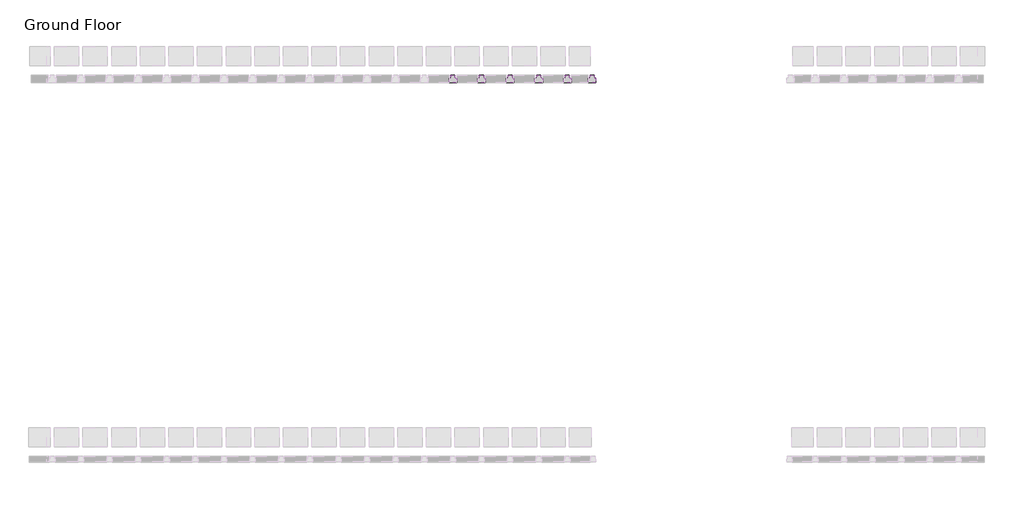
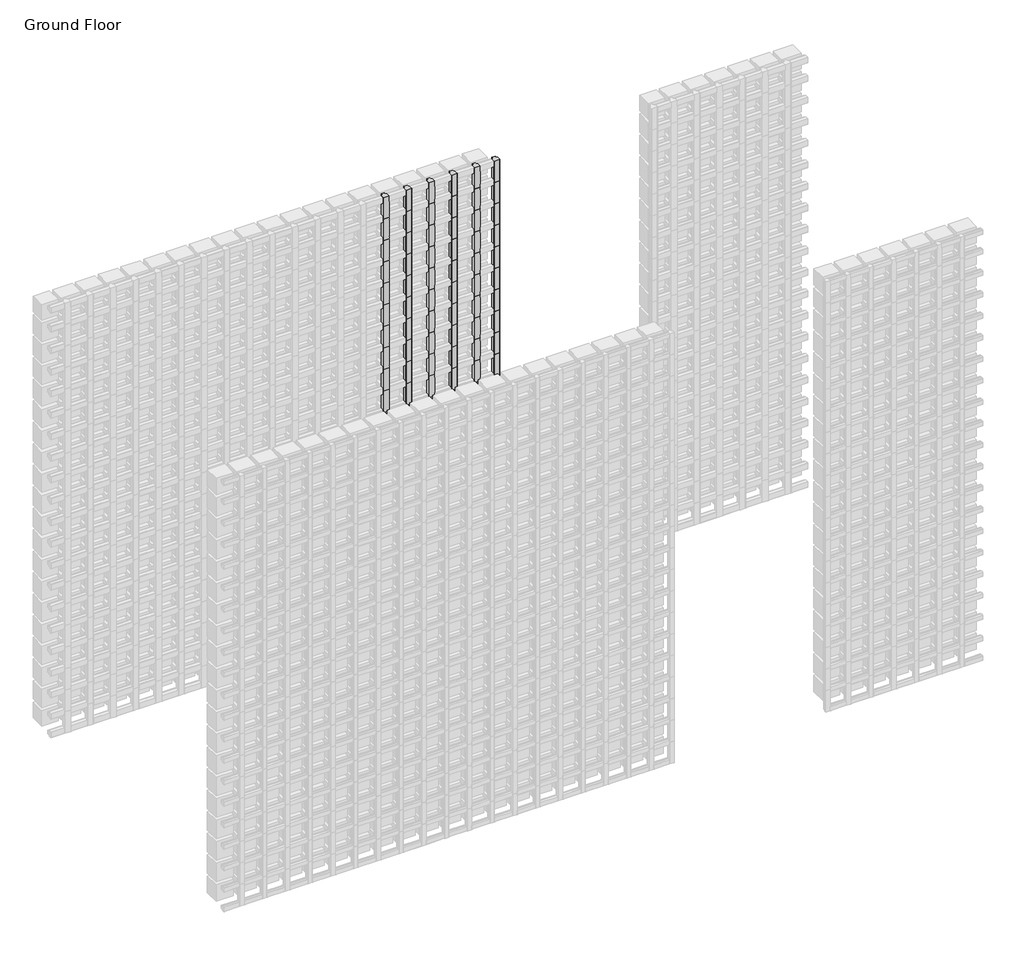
# One storey, part 116 of 350: 144 members.
"""IFC4 building model written with IfcOpenShell, lengths in millimetres."""

from ifc_helpers import new_model, si_unit, origin, place, context, project, spatial, transform, mapped, element, save
from components import rectangular_mullion_84e0df2e, rectangular_mullion_196cc38a, rectangular_mullion_c1c7f7ba, rectangular_mullion_18d3c9e1

model = new_model("IFC4")

# Units and contexts
model_context = context("Model", 3, world=origin())
ifc_project = project(units=[si_unit("LENGTHUNIT", "METRE", prefix="MILLI")], contexts=[model_context])

# Site, building, storey
site = spatial("IfcSite", under=ifc_project)
building = spatial("IfcBuilding", under=site)
storey = spatial("IfcBuildingStorey", under=building, Name="Ground Floor", Elevation=0.0)

# Members
placement = place(None, origin())
rectangular_mullion_shape = rectangular_mullion_84e0df2e(model_context)
element("IfcMember", 1, ObjectType="Rectangular Mullion : Batten_Timber_Modinex_Austratus_Grid_Fin_40x40_AlaskanYellowCedar", at=placement, inside=storey, context=model_context, shape_type="MappedRepresentation", body=[
    mapped(rectangular_mullion_shape, transform((4166.4361642, 44968.2978302, 900.0), x_axis=(1.0, 0.0, 0.0), y_axis=(0.0, -1.0, 0.0), z_axis=(0.0, 0.0, -1.0))),
])
element("IfcMember", 2, ObjectType="Rectangular Mullion : Batten_Timber_Modinex_Austratus_Grid_Fin_40x40_AlaskanYellowCedar", at=placement, inside=storey, context=model_context, shape_type="MappedRepresentation", body=[
    mapped(rectangular_mullion_shape, transform((4166.4361642, 44968.2978302, 1050.0), x_axis=(1.0, 0.0, 0.0), y_axis=(0.0, -1.0, 0.0), z_axis=(0.0, 0.0, -1.0))),
])
element("IfcMember", 3, ObjectType="Rectangular Mullion : Batten_Timber_Modinex_Austratus_Grid_Fin_40x40_AlaskanYellowCedar", at=placement, inside=storey, context=model_context, shape_type="MappedRepresentation", body=[
    mapped(rectangular_mullion_shape, transform((4166.4361642, 44968.2978302, 1200.0), x_axis=(1.0, 0.0, 0.0), y_axis=(0.0, -1.0, 0.0), z_axis=(0.0, 0.0, -1.0))),
])
element("IfcMember", 4, ObjectType="Rectangular Mullion : Batten_Timber_Modinex_Austratus_Grid_Fin_40x40_AlaskanYellowCedar", at=placement, inside=storey, context=model_context, shape_type="MappedRepresentation", body=[
    mapped(rectangular_mullion_shape, transform((4166.4361642, 44968.2978302, 1350.0), x_axis=(1.0, 0.0, 0.0), y_axis=(0.0, -1.0, 0.0), z_axis=(0.0, 0.0, -1.0))),
])
element("IfcMember", 5, ObjectType="Rectangular Mullion : Batten_Timber_Modinex_Austratus_Grid_Fin_40x40_AlaskanYellowCedar", at=placement, inside=storey, context=model_context, shape_type="MappedRepresentation", body=[
    mapped(rectangular_mullion_shape, transform((4166.4361642, 44968.2978302, 1500.0), x_axis=(1.0, 0.0, 0.0), y_axis=(0.0, -1.0, 0.0), z_axis=(0.0, 0.0, -1.0))),
])
element("IfcMember", 6, ObjectType="Rectangular Mullion : Batten_Timber_Modinex_Austratus_Grid_Fin_40x40_AlaskanYellowCedar", at=placement, inside=storey, context=model_context, shape_type="MappedRepresentation", body=[
    mapped(rectangular_mullion_shape, transform((4166.4361642, 44968.2978302, 1650.0), x_axis=(1.0, 0.0, 0.0), y_axis=(0.0, -1.0, 0.0), z_axis=(0.0, 0.0, -1.0))),
])
element("IfcMember", 7, ObjectType="Rectangular Mullion : Batten_Timber_Modinex_Austratus_Grid_Fin_40x40_AlaskanYellowCedar", at=placement, inside=storey, context=model_context, shape_type="MappedRepresentation", body=[
    mapped(rectangular_mullion_shape, transform((4166.4361642, 44968.2978302, 1800.0), x_axis=(1.0, 0.0, 0.0), y_axis=(0.0, -1.0, 0.0), z_axis=(0.0, 0.0, -1.0))),
])
element("IfcMember", 8, ObjectType="Rectangular Mullion : Batten_Timber_Modinex_Austratus_Grid_Fin_40x40_AlaskanYellowCedar", at=placement, inside=storey, context=model_context, shape_type="MappedRepresentation", body=[
    mapped(rectangular_mullion_shape, transform((4166.4361642, 44968.2978302, 1950.0), x_axis=(1.0, 0.0, 0.0), y_axis=(0.0, -1.0, 0.0), z_axis=(0.0, 0.0, -1.0))),
])
element("IfcMember", 9, ObjectType="Rectangular Mullion : Batten_Timber_Modinex_Austratus_Grid_Fin_40x40_AlaskanYellowCedar", at=placement, inside=storey, context=model_context, shape_type="MappedRepresentation", body=[
    mapped(rectangular_mullion_shape, transform((4166.4361642, 44968.2978302, 2100.0), x_axis=(1.0, 0.0, 0.0), y_axis=(0.0, -1.0, 0.0), z_axis=(0.0, 0.0, -1.0))),
])
element("IfcMember", 10, ObjectType="Rectangular Mullion : Batten_Timber_Modinex_Austratus_Grid_Fin_40x40_AlaskanYellowCedar", at=placement, inside=storey, context=model_context, shape_type="MappedRepresentation", body=[
    mapped(rectangular_mullion_shape, transform((4166.4361642, 44968.2978302, 2250.0), x_axis=(1.0, 0.0, 0.0), y_axis=(0.0, -1.0, 0.0), z_axis=(0.0, 0.0, -1.0))),
])
element("IfcMember", 11, ObjectType="Rectangular Mullion : Batten_Timber_Modinex_Austratus_Grid_Fin_40x40_AlaskanYellowCedar", at=placement, inside=storey, context=model_context, shape_type="MappedRepresentation", body=[
    mapped(rectangular_mullion_shape, transform((4166.4361642, 44968.2978302, 2400.0), x_axis=(1.0, 0.0, 0.0), y_axis=(0.0, -1.0, 0.0), z_axis=(0.0, 0.0, -1.0))),
])
element("IfcMember", 12, ObjectType="Rectangular Mullion : Batten_Timber_Modinex_Austratus_Grid_Fin_40x40_AlaskanYellowCedar", at=placement, inside=storey, context=model_context, shape_type="MappedRepresentation", body=[
    mapped(rectangular_mullion_shape, transform((4166.4361642, 44968.2978302, 2550.0), x_axis=(1.0, 0.0, 0.0), y_axis=(0.0, -1.0, 0.0), z_axis=(0.0, 0.0, -1.0))),
])
element("IfcMember", 13, ObjectType="Rectangular Mullion : Batten_Timber_Modinex_Austratus_Grid_Fin_40x40_AlaskanYellowCedar", at=placement, inside=storey, context=model_context, shape_type="MappedRepresentation", body=[
    mapped(rectangular_mullion_shape, transform((4166.4361642, 44968.2978302, 2700.0), x_axis=(1.0, 0.0, 0.0), y_axis=(0.0, -1.0, 0.0), z_axis=(0.0, 0.0, -1.0))),
])
element("IfcMember", 14, ObjectType="Rectangular Mullion : Batten_Timber_Modinex_Austratus_Grid_Fin_40x40_AlaskanYellowCedar", at=placement, inside=storey, context=model_context, shape_type="MappedRepresentation", body=[
    mapped(rectangular_mullion_shape, transform((4316.4361642, 44968.2978302, 150.0), x_axis=(1.0, 0.0, 0.0), y_axis=(0.0, -1.0, 0.0), z_axis=(0.0, 0.0, -1.0))),
])
element("IfcMember", 15, ObjectType="Rectangular Mullion : Batten_Timber_Modinex_Austratus_Grid_Fin_40x40_AlaskanYellowCedar", at=placement, inside=storey, context=model_context, shape_type="MappedRepresentation", body=[
    mapped(rectangular_mullion_shape, transform((4316.4361642, 44968.2978302, 300.0), x_axis=(1.0, 0.0, 0.0), y_axis=(0.0, -1.0, 0.0), z_axis=(0.0, 0.0, -1.0))),
])
element("IfcMember", 16, ObjectType="Rectangular Mullion : Batten_Timber_Modinex_Austratus_Grid_Fin_40x40_AlaskanYellowCedar", at=placement, inside=storey, context=model_context, shape_type="MappedRepresentation", body=[
    mapped(rectangular_mullion_shape, transform((4316.4361642, 44968.2978302, 450.0), x_axis=(1.0, 0.0, 0.0), y_axis=(0.0, -1.0, 0.0), z_axis=(0.0, 0.0, -1.0))),
])
element("IfcMember", 17, ObjectType="Rectangular Mullion : Batten_Timber_Modinex_Austratus_Grid_Fin_40x40_AlaskanYellowCedar", at=placement, inside=storey, context=model_context, shape_type="MappedRepresentation", body=[
    mapped(rectangular_mullion_shape, transform((4316.4361642, 44968.2978302, 600.0), x_axis=(1.0, 0.0, 0.0), y_axis=(0.0, -1.0, 0.0), z_axis=(0.0, 0.0, -1.0))),
])
element("IfcMember", 18, ObjectType="Rectangular Mullion : Batten_Timber_Modinex_Austratus_Grid_Fin_40x40_AlaskanYellowCedar", at=placement, inside=storey, context=model_context, shape_type="MappedRepresentation", body=[
    mapped(rectangular_mullion_shape, transform((4316.4361642, 44968.2978302, 750.0), x_axis=(1.0, 0.0, 0.0), y_axis=(0.0, -1.0, 0.0), z_axis=(0.0, 0.0, -1.0))),
])
element("IfcMember", 19, ObjectType="Rectangular Mullion : Batten_Timber_Modinex_Austratus_Grid_Fin_40x40_AlaskanYellowCedar", at=placement, inside=storey, context=model_context, shape_type="MappedRepresentation", body=[
    mapped(rectangular_mullion_shape, transform((4316.4361642, 44968.2978302, 900.0), x_axis=(1.0, 0.0, 0.0), y_axis=(0.0, -1.0, 0.0), z_axis=(0.0, 0.0, -1.0))),
])
element("IfcMember", 20, ObjectType="Rectangular Mullion : Batten_Timber_Modinex_Austratus_Grid_Fin_40x40_AlaskanYellowCedar", at=placement, inside=storey, context=model_context, shape_type="MappedRepresentation", body=[
    mapped(rectangular_mullion_shape, transform((4316.4361642, 44968.2978302, 1050.0), x_axis=(1.0, 0.0, 0.0), y_axis=(0.0, -1.0, 0.0), z_axis=(0.0, 0.0, -1.0))),
])
element("IfcMember", 21, ObjectType="Rectangular Mullion : Batten_Timber_Modinex_Austratus_Grid_Fin_40x40_AlaskanYellowCedar", at=placement, inside=storey, context=model_context, shape_type="MappedRepresentation", body=[
    mapped(rectangular_mullion_shape, transform((4316.4361642, 44968.2978302, 1200.0), x_axis=(1.0, 0.0, 0.0), y_axis=(0.0, -1.0, 0.0), z_axis=(0.0, 0.0, -1.0))),
])
element("IfcMember", 22, ObjectType="Rectangular Mullion : Batten_Timber_Modinex_Austratus_Grid_Fin_40x40_AlaskanYellowCedar", at=placement, inside=storey, context=model_context, shape_type="MappedRepresentation", body=[
    mapped(rectangular_mullion_shape, transform((4316.4361642, 44968.2978302, 1350.0), x_axis=(1.0, 0.0, 0.0), y_axis=(0.0, -1.0, 0.0), z_axis=(0.0, 0.0, -1.0))),
])
element("IfcMember", 23, ObjectType="Rectangular Mullion : Batten_Timber_Modinex_Austratus_Grid_Fin_40x40_AlaskanYellowCedar", at=placement, inside=storey, context=model_context, shape_type="MappedRepresentation", body=[
    mapped(rectangular_mullion_shape, transform((4316.4361642, 44968.2978302, 1500.0), x_axis=(1.0, 0.0, 0.0), y_axis=(0.0, -1.0, 0.0), z_axis=(0.0, 0.0, -1.0))),
])
element("IfcMember", 24, ObjectType="Rectangular Mullion : Batten_Timber_Modinex_Austratus_Grid_Fin_40x40_AlaskanYellowCedar", at=placement, inside=storey, context=model_context, shape_type="MappedRepresentation", body=[
    mapped(rectangular_mullion_shape, transform((4316.4361642, 44968.2978302, 1650.0), x_axis=(1.0, 0.0, 0.0), y_axis=(0.0, -1.0, 0.0), z_axis=(0.0, 0.0, -1.0))),
])
element("IfcMember", 25, ObjectType="Rectangular Mullion : Batten_Timber_Modinex_Austratus_Grid_Fin_40x40_AlaskanYellowCedar", at=placement, inside=storey, context=model_context, shape_type="MappedRepresentation", body=[
    mapped(rectangular_mullion_shape, transform((4316.4361642, 44968.2978302, 1800.0), x_axis=(1.0, 0.0, 0.0), y_axis=(0.0, -1.0, 0.0), z_axis=(0.0, 0.0, -1.0))),
])
element("IfcMember", 26, ObjectType="Rectangular Mullion : Batten_Timber_Modinex_Austratus_Grid_Fin_40x40_AlaskanYellowCedar", at=placement, inside=storey, context=model_context, shape_type="MappedRepresentation", body=[
    mapped(rectangular_mullion_shape, transform((4316.4361642, 44968.2978302, 1950.0), x_axis=(1.0, 0.0, 0.0), y_axis=(0.0, -1.0, 0.0), z_axis=(0.0, 0.0, -1.0))),
])
element("IfcMember", 27, ObjectType="Rectangular Mullion : Batten_Timber_Modinex_Austratus_Grid_Fin_40x40_AlaskanYellowCedar", at=placement, inside=storey, context=model_context, shape_type="MappedRepresentation", body=[
    mapped(rectangular_mullion_shape, transform((4316.4361642, 44968.2978302, 2100.0), x_axis=(1.0, 0.0, 0.0), y_axis=(0.0, -1.0, 0.0), z_axis=(0.0, 0.0, -1.0))),
])
element("IfcMember", 28, ObjectType="Rectangular Mullion : Batten_Timber_Modinex_Austratus_Grid_Fin_40x40_AlaskanYellowCedar", at=placement, inside=storey, context=model_context, shape_type="MappedRepresentation", body=[
    mapped(rectangular_mullion_shape, transform((4316.4361642, 44968.2978302, 2250.0), x_axis=(1.0, 0.0, 0.0), y_axis=(0.0, -1.0, 0.0), z_axis=(0.0, 0.0, -1.0))),
])
element("IfcMember", 29, ObjectType="Rectangular Mullion : Batten_Timber_Modinex_Austratus_Grid_Fin_40x40_AlaskanYellowCedar", at=placement, inside=storey, context=model_context, shape_type="MappedRepresentation", body=[
    mapped(rectangular_mullion_shape, transform((4316.4361642, 44968.2978302, 2400.0), x_axis=(1.0, 0.0, 0.0), y_axis=(0.0, -1.0, 0.0), z_axis=(0.0, 0.0, -1.0))),
])
element("IfcMember", 30, ObjectType="Rectangular Mullion : Batten_Timber_Modinex_Austratus_Grid_Fin_40x40_AlaskanYellowCedar", at=placement, inside=storey, context=model_context, shape_type="MappedRepresentation", body=[
    mapped(rectangular_mullion_shape, transform((4316.4361642, 44968.2978302, 2550.0), x_axis=(1.0, 0.0, 0.0), y_axis=(0.0, -1.0, 0.0), z_axis=(0.0, 0.0, -1.0))),
])
element("IfcMember", 31, ObjectType="Rectangular Mullion : Batten_Timber_Modinex_Austratus_Grid_Fin_40x40_AlaskanYellowCedar", at=placement, inside=storey, context=model_context, shape_type="MappedRepresentation", body=[
    mapped(rectangular_mullion_shape, transform((4316.4361642, 44968.2978302, 2700.0), x_axis=(1.0, 0.0, 0.0), y_axis=(0.0, -1.0, 0.0), z_axis=(0.0, 0.0, -1.0))),
])
element("IfcMember", 32, ObjectType="Rectangular Mullion : Batten_Timber_Modinex_Austratus_Grid_Fin_40x40_AlaskanYellowCedar", at=placement, inside=storey, context=model_context, shape_type="MappedRepresentation", body=[
    mapped(rectangular_mullion_shape, transform((4466.4361642, 44968.2978302, 150.0), x_axis=(1.0, 0.0, 0.0), y_axis=(0.0, -1.0, 0.0), z_axis=(0.0, 0.0, -1.0))),
])
element("IfcMember", 33, ObjectType="Rectangular Mullion : Batten_Timber_Modinex_Austratus_Grid_Fin_40x40_AlaskanYellowCedar", at=placement, inside=storey, context=model_context, shape_type="MappedRepresentation", body=[
    mapped(rectangular_mullion_shape, transform((4466.4361642, 44968.2978302, 300.0), x_axis=(1.0, 0.0, 0.0), y_axis=(0.0, -1.0, 0.0), z_axis=(0.0, 0.0, -1.0))),
])
element("IfcMember", 34, ObjectType="Rectangular Mullion : Batten_Timber_Modinex_Austratus_Grid_Fin_40x40_AlaskanYellowCedar", at=placement, inside=storey, context=model_context, shape_type="MappedRepresentation", body=[
    mapped(rectangular_mullion_shape, transform((4466.4361642, 44968.2978302, 450.0), x_axis=(1.0, 0.0, 0.0), y_axis=(0.0, -1.0, 0.0), z_axis=(0.0, 0.0, -1.0))),
])
element("IfcMember", 35, ObjectType="Rectangular Mullion : Batten_Timber_Modinex_Austratus_Grid_Fin_40x40_AlaskanYellowCedar", at=placement, inside=storey, context=model_context, shape_type="MappedRepresentation", body=[
    mapped(rectangular_mullion_shape, transform((4466.4361642, 44968.2978302, 600.0), x_axis=(1.0, 0.0, 0.0), y_axis=(0.0, -1.0, 0.0), z_axis=(0.0, 0.0, -1.0))),
])
element("IfcMember", 36, ObjectType="Rectangular Mullion : Batten_Timber_Modinex_Austratus_Grid_Fin_40x40_AlaskanYellowCedar", at=placement, inside=storey, context=model_context, shape_type="MappedRepresentation", body=[
    mapped(rectangular_mullion_shape, transform((4466.4361642, 44968.2978302, 750.0), x_axis=(1.0, 0.0, 0.0), y_axis=(0.0, -1.0, 0.0), z_axis=(0.0, 0.0, -1.0))),
])
element("IfcMember", 37, ObjectType="Rectangular Mullion : Batten_Timber_Modinex_Austratus_Grid_Fin_40x40_AlaskanYellowCedar", at=placement, inside=storey, context=model_context, shape_type="MappedRepresentation", body=[
    mapped(rectangular_mullion_shape, transform((4466.4361642, 44968.2978302, 900.0), x_axis=(1.0, 0.0, 0.0), y_axis=(0.0, -1.0, 0.0), z_axis=(0.0, 0.0, -1.0))),
])
element("IfcMember", 38, ObjectType="Rectangular Mullion : Batten_Timber_Modinex_Austratus_Grid_Fin_40x40_AlaskanYellowCedar", at=placement, inside=storey, context=model_context, shape_type="MappedRepresentation", body=[
    mapped(rectangular_mullion_shape, transform((4466.4361642, 44968.2978302, 1050.0), x_axis=(1.0, 0.0, 0.0), y_axis=(0.0, -1.0, 0.0), z_axis=(0.0, 0.0, -1.0))),
])
element("IfcMember", 39, ObjectType="Rectangular Mullion : Batten_Timber_Modinex_Austratus_Grid_Fin_40x40_AlaskanYellowCedar", at=placement, inside=storey, context=model_context, shape_type="MappedRepresentation", body=[
    mapped(rectangular_mullion_shape, transform((4466.4361642, 44968.2978302, 1200.0), x_axis=(1.0, 0.0, 0.0), y_axis=(0.0, -1.0, 0.0), z_axis=(0.0, 0.0, -1.0))),
])
element("IfcMember", 40, ObjectType="Rectangular Mullion : Batten_Timber_Modinex_Austratus_Grid_Fin_40x40_AlaskanYellowCedar", at=placement, inside=storey, context=model_context, shape_type="MappedRepresentation", body=[
    mapped(rectangular_mullion_shape, transform((4466.4361642, 44968.2978302, 1350.0), x_axis=(1.0, 0.0, 0.0), y_axis=(0.0, -1.0, 0.0), z_axis=(0.0, 0.0, -1.0))),
])
element("IfcMember", 41, ObjectType="Rectangular Mullion : Batten_Timber_Modinex_Austratus_Grid_Fin_40x40_AlaskanYellowCedar", at=placement, inside=storey, context=model_context, shape_type="MappedRepresentation", body=[
    mapped(rectangular_mullion_shape, transform((4466.4361642, 44968.2978302, 1500.0), x_axis=(1.0, 0.0, 0.0), y_axis=(0.0, -1.0, 0.0), z_axis=(0.0, 0.0, -1.0))),
])
element("IfcMember", 42, ObjectType="Rectangular Mullion : Batten_Timber_Modinex_Austratus_Grid_Fin_40x40_AlaskanYellowCedar", at=placement, inside=storey, context=model_context, shape_type="MappedRepresentation", body=[
    mapped(rectangular_mullion_shape, transform((4466.4361642, 44968.2978302, 1650.0), x_axis=(1.0, 0.0, 0.0), y_axis=(0.0, -1.0, 0.0), z_axis=(0.0, 0.0, -1.0))),
])
element("IfcMember", 43, ObjectType="Rectangular Mullion : Batten_Timber_Modinex_Austratus_Grid_Fin_40x40_AlaskanYellowCedar", at=placement, inside=storey, context=model_context, shape_type="MappedRepresentation", body=[
    mapped(rectangular_mullion_shape, transform((4466.4361642, 44968.2978302, 1800.0), x_axis=(1.0, 0.0, 0.0), y_axis=(0.0, -1.0, 0.0), z_axis=(0.0, 0.0, -1.0))),
])
element("IfcMember", 44, ObjectType="Rectangular Mullion : Batten_Timber_Modinex_Austratus_Grid_Fin_40x40_AlaskanYellowCedar", at=placement, inside=storey, context=model_context, shape_type="MappedRepresentation", body=[
    mapped(rectangular_mullion_shape, transform((4466.4361642, 44968.2978302, 1950.0), x_axis=(1.0, 0.0, 0.0), y_axis=(0.0, -1.0, 0.0), z_axis=(0.0, 0.0, -1.0))),
])
element("IfcMember", 45, ObjectType="Rectangular Mullion : Batten_Timber_Modinex_Austratus_Grid_Fin_40x40_AlaskanYellowCedar", at=placement, inside=storey, context=model_context, shape_type="MappedRepresentation", body=[
    mapped(rectangular_mullion_shape, transform((4466.4361642, 44968.2978302, 2100.0), x_axis=(1.0, 0.0, 0.0), y_axis=(0.0, -1.0, 0.0), z_axis=(0.0, 0.0, -1.0))),
])
element("IfcMember", 46, ObjectType="Rectangular Mullion : Batten_Timber_Modinex_Austratus_Grid_Fin_40x40_AlaskanYellowCedar", at=placement, inside=storey, context=model_context, shape_type="MappedRepresentation", body=[
    mapped(rectangular_mullion_shape, transform((4466.4361642, 44968.2978302, 2250.0), x_axis=(1.0, 0.0, 0.0), y_axis=(0.0, -1.0, 0.0), z_axis=(0.0, 0.0, -1.0))),
])
element("IfcMember", 47, ObjectType="Rectangular Mullion : Batten_Timber_Modinex_Austratus_Grid_Fin_40x40_AlaskanYellowCedar", at=placement, inside=storey, context=model_context, shape_type="MappedRepresentation", body=[
    mapped(rectangular_mullion_shape, transform((4466.4361642, 44968.2978302, 2400.0), x_axis=(1.0, 0.0, 0.0), y_axis=(0.0, -1.0, 0.0), z_axis=(0.0, 0.0, -1.0))),
])
element("IfcMember", 48, ObjectType="Rectangular Mullion : Batten_Timber_Modinex_Austratus_Grid_Fin_40x40_AlaskanYellowCedar", at=placement, inside=storey, context=model_context, shape_type="MappedRepresentation", body=[
    mapped(rectangular_mullion_shape, transform((4466.4361642, 44968.2978302, 2550.0), x_axis=(1.0, 0.0, 0.0), y_axis=(0.0, -1.0, 0.0), z_axis=(0.0, 0.0, -1.0))),
])
element("IfcMember", 49, ObjectType="Rectangular Mullion : Batten_Timber_Modinex_Austratus_Grid_Fin_40x40_AlaskanYellowCedar", at=placement, inside=storey, context=model_context, shape_type="MappedRepresentation", body=[
    mapped(rectangular_mullion_shape, transform((4466.4361642, 44968.2978302, 2700.0), x_axis=(1.0, 0.0, 0.0), y_axis=(0.0, -1.0, 0.0), z_axis=(0.0, 0.0, -1.0))),
])
element("IfcMember", 50, ObjectType="Rectangular Mullion : Batten_Timber_Modinex_Austratus_Grid_Fin_40x40_AlaskanYellowCedar", at=placement, inside=storey, context=model_context, shape_type="MappedRepresentation", body=[
    mapped(rectangular_mullion_shape, transform((4616.4361642, 44968.2978302, 150.0), x_axis=(1.0, 0.0, 0.0), y_axis=(0.0, -1.0, 0.0), z_axis=(0.0, 0.0, -1.0))),
])
element("IfcMember", 51, ObjectType="Rectangular Mullion : Batten_Timber_Modinex_Austratus_Grid_Fin_40x40_AlaskanYellowCedar", at=placement, inside=storey, context=model_context, shape_type="MappedRepresentation", body=[
    mapped(rectangular_mullion_shape, transform((4616.4361642, 44968.2978302, 300.0), x_axis=(1.0, 0.0, 0.0), y_axis=(0.0, -1.0, 0.0), z_axis=(0.0, 0.0, -1.0))),
])
element("IfcMember", 52, ObjectType="Rectangular Mullion : Batten_Timber_Modinex_Austratus_Grid_Fin_40x40_AlaskanYellowCedar", at=placement, inside=storey, context=model_context, shape_type="MappedRepresentation", body=[
    mapped(rectangular_mullion_shape, transform((4616.4361642, 44968.2978302, 450.0), x_axis=(1.0, 0.0, 0.0), y_axis=(0.0, -1.0, 0.0), z_axis=(0.0, 0.0, -1.0))),
])
element("IfcMember", 53, ObjectType="Rectangular Mullion : Batten_Timber_Modinex_Austratus_Grid_Fin_40x40_AlaskanYellowCedar", at=placement, inside=storey, context=model_context, shape_type="MappedRepresentation", body=[
    mapped(rectangular_mullion_shape, transform((4616.4361642, 44968.2978302, 600.0), x_axis=(1.0, 0.0, 0.0), y_axis=(0.0, -1.0, 0.0), z_axis=(0.0, 0.0, -1.0))),
])
element("IfcMember", 54, ObjectType="Rectangular Mullion : Batten_Timber_Modinex_Austratus_Grid_Fin_40x40_AlaskanYellowCedar", at=placement, inside=storey, context=model_context, shape_type="MappedRepresentation", body=[
    mapped(rectangular_mullion_shape, transform((4616.4361642, 44968.2978302, 750.0), x_axis=(1.0, 0.0, 0.0), y_axis=(0.0, -1.0, 0.0), z_axis=(0.0, 0.0, -1.0))),
])
element("IfcMember", 55, ObjectType="Rectangular Mullion : Batten_Timber_Modinex_Austratus_Grid_Fin_40x40_AlaskanYellowCedar", at=placement, inside=storey, context=model_context, shape_type="MappedRepresentation", body=[
    mapped(rectangular_mullion_shape, transform((4616.4361642, 44968.2978302, 900.0), x_axis=(1.0, 0.0, 0.0), y_axis=(0.0, -1.0, 0.0), z_axis=(0.0, 0.0, -1.0))),
])
element("IfcMember", 56, ObjectType="Rectangular Mullion : Batten_Timber_Modinex_Austratus_Grid_Fin_40x40_AlaskanYellowCedar", at=placement, inside=storey, context=model_context, shape_type="MappedRepresentation", body=[
    mapped(rectangular_mullion_shape, transform((4616.4361642, 44968.2978302, 1050.0), x_axis=(1.0, 0.0, 0.0), y_axis=(0.0, -1.0, 0.0), z_axis=(0.0, 0.0, -1.0))),
])
element("IfcMember", 57, ObjectType="Rectangular Mullion : Batten_Timber_Modinex_Austratus_Grid_Fin_40x40_AlaskanYellowCedar", at=placement, inside=storey, context=model_context, shape_type="MappedRepresentation", body=[
    mapped(rectangular_mullion_shape, transform((4616.4361642, 44968.2978302, 1200.0), x_axis=(1.0, 0.0, 0.0), y_axis=(0.0, -1.0, 0.0), z_axis=(0.0, 0.0, -1.0))),
])
element("IfcMember", 58, ObjectType="Rectangular Mullion : Batten_Timber_Modinex_Austratus_Grid_Fin_40x40_AlaskanYellowCedar", at=placement, inside=storey, context=model_context, shape_type="MappedRepresentation", body=[
    mapped(rectangular_mullion_shape, transform((4616.4361642, 44968.2978302, 1350.0), x_axis=(1.0, 0.0, 0.0), y_axis=(0.0, -1.0, 0.0), z_axis=(0.0, 0.0, -1.0))),
])
element("IfcMember", 59, ObjectType="Rectangular Mullion : Batten_Timber_Modinex_Austratus_Grid_Fin_40x40_AlaskanYellowCedar", at=placement, inside=storey, context=model_context, shape_type="MappedRepresentation", body=[
    mapped(rectangular_mullion_shape, transform((4616.4361642, 44968.2978302, 1500.0), x_axis=(1.0, 0.0, 0.0), y_axis=(0.0, -1.0, 0.0), z_axis=(0.0, 0.0, -1.0))),
])
element("IfcMember", 60, ObjectType="Rectangular Mullion : Batten_Timber_Modinex_Austratus_Grid_Fin_40x40_AlaskanYellowCedar", at=placement, inside=storey, context=model_context, shape_type="MappedRepresentation", body=[
    mapped(rectangular_mullion_shape, transform((4616.4361642, 44968.2978302, 1650.0), x_axis=(1.0, 0.0, 0.0), y_axis=(0.0, -1.0, 0.0), z_axis=(0.0, 0.0, -1.0))),
])
element("IfcMember", 61, ObjectType="Rectangular Mullion : Batten_Timber_Modinex_Austratus_Grid_Fin_40x40_AlaskanYellowCedar", at=placement, inside=storey, context=model_context, shape_type="MappedRepresentation", body=[
    mapped(rectangular_mullion_shape, transform((4616.4361642, 44968.2978302, 1800.0), x_axis=(1.0, 0.0, 0.0), y_axis=(0.0, -1.0, 0.0), z_axis=(0.0, 0.0, -1.0))),
])
element("IfcMember", 62, ObjectType="Rectangular Mullion : Batten_Timber_Modinex_Austratus_Grid_Fin_40x40_AlaskanYellowCedar", at=placement, inside=storey, context=model_context, shape_type="MappedRepresentation", body=[
    mapped(rectangular_mullion_shape, transform((4616.4361642, 44968.2978302, 1950.0), x_axis=(1.0, 0.0, 0.0), y_axis=(0.0, -1.0, 0.0), z_axis=(0.0, 0.0, -1.0))),
])
element("IfcMember", 63, ObjectType="Rectangular Mullion : Batten_Timber_Modinex_Austratus_Grid_Fin_40x40_AlaskanYellowCedar", at=placement, inside=storey, context=model_context, shape_type="MappedRepresentation", body=[
    mapped(rectangular_mullion_shape, transform((4616.4361642, 44968.2978302, 2100.0), x_axis=(1.0, 0.0, 0.0), y_axis=(0.0, -1.0, 0.0), z_axis=(0.0, 0.0, -1.0))),
])
element("IfcMember", 64, ObjectType="Rectangular Mullion : Batten_Timber_Modinex_Austratus_Grid_Fin_40x40_AlaskanYellowCedar", at=placement, inside=storey, context=model_context, shape_type="MappedRepresentation", body=[
    mapped(rectangular_mullion_shape, transform((4616.4361642, 44968.2978302, 2250.0), x_axis=(1.0, 0.0, 0.0), y_axis=(0.0, -1.0, 0.0), z_axis=(0.0, 0.0, -1.0))),
])
element("IfcMember", 65, ObjectType="Rectangular Mullion : Batten_Timber_Modinex_Austratus_Grid_Fin_40x40_AlaskanYellowCedar", at=placement, inside=storey, context=model_context, shape_type="MappedRepresentation", body=[
    mapped(rectangular_mullion_shape, transform((4616.4361642, 44968.2978302, 2400.0), x_axis=(1.0, 0.0, 0.0), y_axis=(0.0, -1.0, 0.0), z_axis=(0.0, 0.0, -1.0))),
])
element("IfcMember", 66, ObjectType="Rectangular Mullion : Batten_Timber_Modinex_Austratus_Grid_Fin_40x40_AlaskanYellowCedar", at=placement, inside=storey, context=model_context, shape_type="MappedRepresentation", body=[
    mapped(rectangular_mullion_shape, transform((4616.4361642, 44968.2978302, 2550.0), x_axis=(1.0, 0.0, 0.0), y_axis=(0.0, -1.0, 0.0), z_axis=(0.0, 0.0, -1.0))),
])
element("IfcMember", 67, ObjectType="Rectangular Mullion : Batten_Timber_Modinex_Austratus_Grid_Fin_40x40_AlaskanYellowCedar", at=placement, inside=storey, context=model_context, shape_type="MappedRepresentation", body=[
    mapped(rectangular_mullion_shape, transform((4616.4361642, 44968.2978302, 2700.0), x_axis=(1.0, 0.0, 0.0), y_axis=(0.0, -1.0, 0.0), z_axis=(0.0, 0.0, -1.0))),
])
element("IfcMember", 68, ObjectType="Rectangular Mullion : Batten_Timber_Modinex_Austratus_Grid_Fin_40x40_AlaskanYellowCedar", at=placement, inside=storey, context=model_context, shape_type="MappedRepresentation", body=[
    mapped(rectangular_mullion_shape, transform((4766.4361642, 44968.2978302, 150.0), x_axis=(1.0, 0.0, 0.0), y_axis=(0.0, -1.0, 0.0), z_axis=(0.0, 0.0, -1.0))),
])
element("IfcMember", 69, ObjectType="Rectangular Mullion : Batten_Timber_Modinex_Austratus_Grid_Fin_40x40_AlaskanYellowCedar", at=placement, inside=storey, context=model_context, shape_type="MappedRepresentation", body=[
    mapped(rectangular_mullion_shape, transform((4766.4361642, 44968.2978302, 300.0), x_axis=(1.0, 0.0, 0.0), y_axis=(0.0, -1.0, 0.0), z_axis=(0.0, 0.0, -1.0))),
])
element("IfcMember", 70, ObjectType="Rectangular Mullion : Batten_Timber_Modinex_Austratus_Grid_Fin_40x40_AlaskanYellowCedar", at=placement, inside=storey, context=model_context, shape_type="MappedRepresentation", body=[
    mapped(rectangular_mullion_shape, transform((4766.4361642, 44968.2978302, 450.0), x_axis=(1.0, 0.0, 0.0), y_axis=(0.0, -1.0, 0.0), z_axis=(0.0, 0.0, -1.0))),
])
element("IfcMember", 71, ObjectType="Rectangular Mullion : Batten_Timber_Modinex_Austratus_Grid_Fin_40x40_AlaskanYellowCedar", at=placement, inside=storey, context=model_context, shape_type="MappedRepresentation", body=[
    mapped(rectangular_mullion_shape, transform((4766.4361642, 44968.2978302, 600.0), x_axis=(1.0, 0.0, 0.0), y_axis=(0.0, -1.0, 0.0), z_axis=(0.0, 0.0, -1.0))),
])
element("IfcMember", 72, ObjectType="Rectangular Mullion : Batten_Timber_Modinex_Austratus_Grid_Fin_40x40_AlaskanYellowCedar", at=placement, inside=storey, context=model_context, shape_type="MappedRepresentation", body=[
    mapped(rectangular_mullion_shape, transform((4766.4361642, 44968.2978302, 750.0), x_axis=(1.0, 0.0, 0.0), y_axis=(0.0, -1.0, 0.0), z_axis=(0.0, 0.0, -1.0))),
])
element("IfcMember", 73, ObjectType="Rectangular Mullion : Batten_Timber_Modinex_Austratus_Grid_Fin_40x40_AlaskanYellowCedar", at=placement, inside=storey, context=model_context, shape_type="MappedRepresentation", body=[
    mapped(rectangular_mullion_shape, transform((4766.4361642, 44968.2978302, 900.0), x_axis=(1.0, 0.0, 0.0), y_axis=(0.0, -1.0, 0.0), z_axis=(0.0, 0.0, -1.0))),
])
element("IfcMember", 74, ObjectType="Rectangular Mullion : Batten_Timber_Modinex_Austratus_Grid_Fin_40x40_AlaskanYellowCedar", at=placement, inside=storey, context=model_context, shape_type="MappedRepresentation", body=[
    mapped(rectangular_mullion_shape, transform((4766.4361642, 44968.2978302, 1050.0), x_axis=(1.0, 0.0, 0.0), y_axis=(0.0, -1.0, 0.0), z_axis=(0.0, 0.0, -1.0))),
])
element("IfcMember", 75, ObjectType="Rectangular Mullion : Batten_Timber_Modinex_Austratus_Grid_Fin_40x40_AlaskanYellowCedar", at=placement, inside=storey, context=model_context, shape_type="MappedRepresentation", body=[
    mapped(rectangular_mullion_shape, transform((4766.4361642, 44968.2978302, 1200.0), x_axis=(1.0, 0.0, 0.0), y_axis=(0.0, -1.0, 0.0), z_axis=(0.0, 0.0, -1.0))),
])
element("IfcMember", 76, ObjectType="Rectangular Mullion : Batten_Timber_Modinex_Austratus_Grid_Fin_40x40_AlaskanYellowCedar", at=placement, inside=storey, context=model_context, shape_type="MappedRepresentation", body=[
    mapped(rectangular_mullion_shape, transform((4766.4361642, 44968.2978302, 1350.0), x_axis=(1.0, 0.0, 0.0), y_axis=(0.0, -1.0, 0.0), z_axis=(0.0, 0.0, -1.0))),
])
element("IfcMember", 77, ObjectType="Rectangular Mullion : Batten_Timber_Modinex_Austratus_Grid_Fin_40x40_AlaskanYellowCedar", at=placement, inside=storey, context=model_context, shape_type="MappedRepresentation", body=[
    mapped(rectangular_mullion_shape, transform((4766.4361642, 44968.2978302, 1500.0), x_axis=(1.0, 0.0, 0.0), y_axis=(0.0, -1.0, 0.0), z_axis=(0.0, 0.0, -1.0))),
])
element("IfcMember", 78, ObjectType="Rectangular Mullion : Batten_Timber_Modinex_Austratus_Grid_Fin_40x40_AlaskanYellowCedar", at=placement, inside=storey, context=model_context, shape_type="MappedRepresentation", body=[
    mapped(rectangular_mullion_shape, transform((4766.4361642, 44968.2978302, 1650.0), x_axis=(1.0, 0.0, 0.0), y_axis=(0.0, -1.0, 0.0), z_axis=(0.0, 0.0, -1.0))),
])
element("IfcMember", 79, ObjectType="Rectangular Mullion : Batten_Timber_Modinex_Austratus_Grid_Fin_40x40_AlaskanYellowCedar", at=placement, inside=storey, context=model_context, shape_type="MappedRepresentation", body=[
    mapped(rectangular_mullion_shape, transform((4766.4361642, 44968.2978302, 1800.0), x_axis=(1.0, 0.0, 0.0), y_axis=(0.0, -1.0, 0.0), z_axis=(0.0, 0.0, -1.0))),
])
element("IfcMember", 80, ObjectType="Rectangular Mullion : Batten_Timber_Modinex_Austratus_Grid_Fin_40x40_AlaskanYellowCedar", at=placement, inside=storey, context=model_context, shape_type="MappedRepresentation", body=[
    mapped(rectangular_mullion_shape, transform((4766.4361642, 44968.2978302, 1950.0), x_axis=(1.0, 0.0, 0.0), y_axis=(0.0, -1.0, 0.0), z_axis=(0.0, 0.0, -1.0))),
])
element("IfcMember", 81, ObjectType="Rectangular Mullion : Batten_Timber_Modinex_Austratus_Grid_Fin_40x40_AlaskanYellowCedar", at=placement, inside=storey, context=model_context, shape_type="MappedRepresentation", body=[
    mapped(rectangular_mullion_shape, transform((4766.4361642, 44968.2978302, 2100.0), x_axis=(1.0, 0.0, 0.0), y_axis=(0.0, -1.0, 0.0), z_axis=(0.0, 0.0, -1.0))),
])
element("IfcMember", 82, ObjectType="Rectangular Mullion : Batten_Timber_Modinex_Austratus_Grid_Fin_40x40_AlaskanYellowCedar", at=placement, inside=storey, context=model_context, shape_type="MappedRepresentation", body=[
    mapped(rectangular_mullion_shape, transform((4766.4361642, 44968.2978302, 2250.0), x_axis=(1.0, 0.0, 0.0), y_axis=(0.0, -1.0, 0.0), z_axis=(0.0, 0.0, -1.0))),
])
element("IfcMember", 83, ObjectType="Rectangular Mullion : Batten_Timber_Modinex_Austratus_Grid_Fin_40x40_AlaskanYellowCedar", at=placement, inside=storey, context=model_context, shape_type="MappedRepresentation", body=[
    mapped(rectangular_mullion_shape, transform((4766.4361642, 44968.2978302, 2400.0), x_axis=(1.0, 0.0, 0.0), y_axis=(0.0, -1.0, 0.0), z_axis=(0.0, 0.0, -1.0))),
])
element("IfcMember", 84, ObjectType="Rectangular Mullion : Batten_Timber_Modinex_Austratus_Grid_Fin_40x40_AlaskanYellowCedar", at=placement, inside=storey, context=model_context, shape_type="MappedRepresentation", body=[
    mapped(rectangular_mullion_shape, transform((4766.4361642, 44968.2978302, 2550.0), x_axis=(1.0, 0.0, 0.0), y_axis=(0.0, -1.0, 0.0), z_axis=(0.0, 0.0, -1.0))),
])
element("IfcMember", 85, ObjectType="Rectangular Mullion : Batten_Timber_Modinex_Austratus_Grid_Fin_40x40_AlaskanYellowCedar", at=placement, inside=storey, context=model_context, shape_type="MappedRepresentation", body=[
    mapped(rectangular_mullion_shape, transform((4766.4361642, 44968.2978302, 2700.0), x_axis=(1.0, 0.0, 0.0), y_axis=(0.0, -1.0, 0.0), z_axis=(0.0, 0.0, -1.0))),
])
element("IfcMember", 86, ObjectType="Rectangular Mullion : Batten_Timber_Modinex_Austratus_Grid_Fin_40x40_AlaskanYellowCedar", at=placement, inside=storey, context=model_context, shape_type="MappedRepresentation", body=[
    mapped(rectangular_mullion_shape, transform((4166.4361642, 44968.2978302, 2850.0), x_axis=(1.0, 0.0, 0.0), y_axis=(0.0, -1.0, 0.0), z_axis=(0.0, 0.0, -1.0))),
])
element("IfcMember", 87, ObjectType="Rectangular Mullion : Batten_Timber_Modinex_Austratus_Grid_Fin_40x40_AlaskanYellowCedar", at=placement, inside=storey, context=model_context, shape_type="MappedRepresentation", body=[
    mapped(rectangular_mullion_shape, transform((4316.4361642, 44968.2978302, 2850.0), x_axis=(1.0, 0.0, 0.0), y_axis=(0.0, -1.0, 0.0), z_axis=(0.0, 0.0, -1.0))),
])
element("IfcMember", 88, ObjectType="Rectangular Mullion : Batten_Timber_Modinex_Austratus_Grid_Fin_40x40_AlaskanYellowCedar", at=placement, inside=storey, context=model_context, shape_type="MappedRepresentation", body=[
    mapped(rectangular_mullion_shape, transform((4466.4361642, 44968.2978302, 2850.0), x_axis=(1.0, 0.0, 0.0), y_axis=(0.0, -1.0, 0.0), z_axis=(0.0, 0.0, -1.0))),
])
element("IfcMember", 89, ObjectType="Rectangular Mullion : Batten_Timber_Modinex_Austratus_Grid_Fin_40x40_AlaskanYellowCedar", at=placement, inside=storey, context=model_context, shape_type="MappedRepresentation", body=[
    mapped(rectangular_mullion_shape, transform((4616.4361642, 44968.2978302, 2850.0), x_axis=(1.0, 0.0, 0.0), y_axis=(0.0, -1.0, 0.0), z_axis=(0.0, 0.0, -1.0))),
])
element("IfcMember", 90, ObjectType="Rectangular Mullion : Batten_Timber_Modinex_Austratus_Grid_Fin_40x40_AlaskanYellowCedar", at=placement, inside=storey, context=model_context, shape_type="MappedRepresentation", body=[
    mapped(rectangular_mullion_shape, transform((4766.4361642, 44968.2978302, 2850.0), x_axis=(1.0, 0.0, 0.0), y_axis=(0.0, -1.0, 0.0), z_axis=(0.0, 0.0, -1.0))),
])
rectangular_mullion_2_shape = rectangular_mullion_196cc38a(model_context)
element("IfcMember", 91, ObjectType="Rectangular Mullion : Batten_Timber_Modinex_Austratus_Grid_Fin_40x40_AlaskanYellowCedar", at=placement, inside=storey, context=model_context, shape_type="MappedRepresentation", body=[
    mapped(rectangular_mullion_2_shape, transform((4876.4361639, 44968.2978302, 150.0), x_axis=(0.0, 0.0, 1.0), y_axis=(0.0, -1.0, 0.0), z_axis=(1.0, 0.0, 0.0))),
])
element("IfcMember", 92, ObjectType="Rectangular Mullion : Batten_Timber_Modinex_Austratus_Grid_Fin_40x40_AlaskanYellowCedar", at=placement, inside=storey, context=model_context, shape_type="MappedRepresentation", body=[
    mapped(rectangular_mullion_2_shape, transform((4876.4361639, 44968.2978302, 300.0), x_axis=(0.0, 0.0, 1.0), y_axis=(0.0, -1.0, 0.0), z_axis=(1.0, 0.0, 0.0))),
])
element("IfcMember", 93, ObjectType="Rectangular Mullion : Batten_Timber_Modinex_Austratus_Grid_Fin_40x40_AlaskanYellowCedar", at=placement, inside=storey, context=model_context, shape_type="MappedRepresentation", body=[
    mapped(rectangular_mullion_2_shape, transform((4876.4361639, 44968.2978302, 450.0), x_axis=(0.0, 0.0, 1.0), y_axis=(0.0, -1.0, 0.0), z_axis=(1.0, 0.0, 0.0))),
])
element("IfcMember", 94, ObjectType="Rectangular Mullion : Batten_Timber_Modinex_Austratus_Grid_Fin_40x40_AlaskanYellowCedar", at=placement, inside=storey, context=model_context, shape_type="MappedRepresentation", body=[
    mapped(rectangular_mullion_2_shape, transform((4876.4361639, 44968.2978302, 600.0), x_axis=(0.0, 0.0, 1.0), y_axis=(0.0, -1.0, 0.0), z_axis=(1.0, 0.0, 0.0))),
])
element("IfcMember", 95, ObjectType="Rectangular Mullion : Batten_Timber_Modinex_Austratus_Grid_Fin_40x40_AlaskanYellowCedar", at=placement, inside=storey, context=model_context, shape_type="MappedRepresentation", body=[
    mapped(rectangular_mullion_2_shape, transform((4876.4361639, 44968.2978302, 750.0), x_axis=(0.0, 0.0, 1.0), y_axis=(0.0, -1.0, 0.0), z_axis=(1.0, 0.0, 0.0))),
])
rectangular_mullion_3_shape = rectangular_mullion_c1c7f7ba(model_context)
element("IfcMember", 96, ObjectType="Rectangular Mullion : Batten_Timber_Modinex_Austratus_Grid_Fin_40x40_AlaskanYellowCedar", at=placement, inside=storey, context=model_context, shape_type="MappedRepresentation", body=[
    mapped(rectangular_mullion_3_shape, transform((4146.4361642, 44968.2978302, 150.0), x_axis=(0.0, 0.0, 1.0), y_axis=(0.0, -1.0, 0.0), z_axis=(1.0, 0.0, 0.0))),
])
element("IfcMember", 97, ObjectType="Rectangular Mullion : Batten_Timber_Modinex_Austratus_Grid_Fin_40x40_AlaskanYellowCedar", at=placement, inside=storey, context=model_context, shape_type="MappedRepresentation", body=[
    mapped(rectangular_mullion_3_shape, transform((4296.4361642, 44968.2978302, 150.0), x_axis=(0.0, 0.0, 1.0), y_axis=(0.0, -1.0, 0.0), z_axis=(1.0, 0.0, 0.0))),
])
element("IfcMember", 98, ObjectType="Rectangular Mullion : Batten_Timber_Modinex_Austratus_Grid_Fin_40x40_AlaskanYellowCedar", at=placement, inside=storey, context=model_context, shape_type="MappedRepresentation", body=[
    mapped(rectangular_mullion_3_shape, transform((4446.4361642, 44968.2978302, 150.0), x_axis=(0.0, 0.0, 1.0), y_axis=(0.0, -1.0, 0.0), z_axis=(1.0, 0.0, 0.0))),
])
element("IfcMember", 99, ObjectType="Rectangular Mullion : Batten_Timber_Modinex_Austratus_Grid_Fin_40x40_AlaskanYellowCedar", at=placement, inside=storey, context=model_context, shape_type="MappedRepresentation", body=[
    mapped(rectangular_mullion_3_shape, transform((4596.4361642, 44968.2978302, 150.0), x_axis=(0.0, 0.0, 1.0), y_axis=(0.0, -1.0, 0.0), z_axis=(1.0, 0.0, 0.0))),
])
element("IfcMember", 100, ObjectType="Rectangular Mullion : Batten_Timber_Modinex_Austratus_Grid_Fin_40x40_AlaskanYellowCedar", at=placement, inside=storey, context=model_context, shape_type="MappedRepresentation", body=[
    mapped(rectangular_mullion_3_shape, transform((4746.4361642, 44968.2978302, 150.0), x_axis=(0.0, 0.0, 1.0), y_axis=(0.0, -1.0, 0.0), z_axis=(1.0, 0.0, 0.0))),
])
element("IfcMember", 101, ObjectType="Rectangular Mullion : Batten_Timber_Modinex_Austratus_Grid_Fin_40x40_AlaskanYellowCedar", at=placement, inside=storey, context=model_context, shape_type="MappedRepresentation", body=[
    mapped(rectangular_mullion_3_shape, transform((4146.4361642, 44968.2978302, 300.0), x_axis=(0.0, 0.0, 1.0), y_axis=(0.0, -1.0, 0.0), z_axis=(1.0, 0.0, 0.0))),
])
element("IfcMember", 102, ObjectType="Rectangular Mullion : Batten_Timber_Modinex_Austratus_Grid_Fin_40x40_AlaskanYellowCedar", at=placement, inside=storey, context=model_context, shape_type="MappedRepresentation", body=[
    mapped(rectangular_mullion_3_shape, transform((4296.4361642, 44968.2978302, 300.0), x_axis=(0.0, 0.0, 1.0), y_axis=(0.0, -1.0, 0.0), z_axis=(1.0, 0.0, 0.0))),
])
element("IfcMember", 103, ObjectType="Rectangular Mullion : Batten_Timber_Modinex_Austratus_Grid_Fin_40x40_AlaskanYellowCedar", at=placement, inside=storey, context=model_context, shape_type="MappedRepresentation", body=[
    mapped(rectangular_mullion_3_shape, transform((4446.4361642, 44968.2978302, 300.0), x_axis=(0.0, 0.0, 1.0), y_axis=(0.0, -1.0, 0.0), z_axis=(1.0, 0.0, 0.0))),
])
element("IfcMember", 104, ObjectType="Rectangular Mullion : Batten_Timber_Modinex_Austratus_Grid_Fin_40x40_AlaskanYellowCedar", at=placement, inside=storey, context=model_context, shape_type="MappedRepresentation", body=[
    mapped(rectangular_mullion_3_shape, transform((4596.4361642, 44968.2978302, 300.0), x_axis=(0.0, 0.0, 1.0), y_axis=(0.0, -1.0, 0.0), z_axis=(1.0, 0.0, 0.0))),
])
element("IfcMember", 105, ObjectType="Rectangular Mullion : Batten_Timber_Modinex_Austratus_Grid_Fin_40x40_AlaskanYellowCedar", at=placement, inside=storey, context=model_context, shape_type="MappedRepresentation", body=[
    mapped(rectangular_mullion_3_shape, transform((4746.4361642, 44968.2978302, 300.0), x_axis=(0.0, 0.0, 1.0), y_axis=(0.0, -1.0, 0.0), z_axis=(1.0, 0.0, 0.0))),
])
element("IfcMember", 106, ObjectType="Rectangular Mullion : Batten_Timber_Modinex_Austratus_Grid_Fin_40x40_AlaskanYellowCedar", at=placement, inside=storey, context=model_context, shape_type="MappedRepresentation", body=[
    mapped(rectangular_mullion_3_shape, transform((4146.4361642, 44968.2978302, 450.0), x_axis=(0.0, 0.0, 1.0), y_axis=(0.0, -1.0, 0.0), z_axis=(1.0, 0.0, 0.0))),
])
element("IfcMember", 107, ObjectType="Rectangular Mullion : Batten_Timber_Modinex_Austratus_Grid_Fin_40x40_AlaskanYellowCedar", at=placement, inside=storey, context=model_context, shape_type="MappedRepresentation", body=[
    mapped(rectangular_mullion_3_shape, transform((4296.4361642, 44968.2978302, 450.0), x_axis=(0.0, 0.0, 1.0), y_axis=(0.0, -1.0, 0.0), z_axis=(1.0, 0.0, 0.0))),
])
element("IfcMember", 108, ObjectType="Rectangular Mullion : Batten_Timber_Modinex_Austratus_Grid_Fin_40x40_AlaskanYellowCedar", at=placement, inside=storey, context=model_context, shape_type="MappedRepresentation", body=[
    mapped(rectangular_mullion_3_shape, transform((4446.4361642, 44968.2978302, 450.0), x_axis=(0.0, 0.0, 1.0), y_axis=(0.0, -1.0, 0.0), z_axis=(1.0, 0.0, 0.0))),
])
element("IfcMember", 109, ObjectType="Rectangular Mullion : Batten_Timber_Modinex_Austratus_Grid_Fin_40x40_AlaskanYellowCedar", at=placement, inside=storey, context=model_context, shape_type="MappedRepresentation", body=[
    mapped(rectangular_mullion_3_shape, transform((4596.4361642, 44968.2978302, 450.0), x_axis=(0.0, 0.0, 1.0), y_axis=(0.0, -1.0, 0.0), z_axis=(1.0, 0.0, 0.0))),
])
element("IfcMember", 110, ObjectType="Rectangular Mullion : Batten_Timber_Modinex_Austratus_Grid_Fin_40x40_AlaskanYellowCedar", at=placement, inside=storey, context=model_context, shape_type="MappedRepresentation", body=[
    mapped(rectangular_mullion_3_shape, transform((4746.4361642, 44968.2978302, 450.0), x_axis=(0.0, 0.0, 1.0), y_axis=(0.0, -1.0, 0.0), z_axis=(1.0, 0.0, 0.0))),
])
element("IfcMember", 111, ObjectType="Rectangular Mullion : Batten_Timber_Modinex_Austratus_Grid_Fin_40x40_AlaskanYellowCedar", at=placement, inside=storey, context=model_context, shape_type="MappedRepresentation", body=[
    mapped(rectangular_mullion_3_shape, transform((4146.4361642, 44968.2978302, 600.0), x_axis=(0.0, 0.0, 1.0), y_axis=(0.0, -1.0, 0.0), z_axis=(1.0, 0.0, 0.0))),
])
element("IfcMember", 112, ObjectType="Rectangular Mullion : Batten_Timber_Modinex_Austratus_Grid_Fin_40x40_AlaskanYellowCedar", at=placement, inside=storey, context=model_context, shape_type="MappedRepresentation", body=[
    mapped(rectangular_mullion_3_shape, transform((4296.4361642, 44968.2978302, 600.0), x_axis=(0.0, 0.0, 1.0), y_axis=(0.0, -1.0, 0.0), z_axis=(1.0, 0.0, 0.0))),
])
element("IfcMember", 113, ObjectType="Rectangular Mullion : Batten_Timber_Modinex_Austratus_Grid_Fin_40x40_AlaskanYellowCedar", at=placement, inside=storey, context=model_context, shape_type="MappedRepresentation", body=[
    mapped(rectangular_mullion_3_shape, transform((4446.4361642, 44968.2978302, 600.0), x_axis=(0.0, 0.0, 1.0), y_axis=(0.0, -1.0, 0.0), z_axis=(1.0, 0.0, 0.0))),
])
element("IfcMember", 114, ObjectType="Rectangular Mullion : Batten_Timber_Modinex_Austratus_Grid_Fin_40x40_AlaskanYellowCedar", at=placement, inside=storey, context=model_context, shape_type="MappedRepresentation", body=[
    mapped(rectangular_mullion_3_shape, transform((4596.4361642, 44968.2978302, 600.0), x_axis=(0.0, 0.0, 1.0), y_axis=(0.0, -1.0, 0.0), z_axis=(1.0, 0.0, 0.0))),
])
element("IfcMember", 115, ObjectType="Rectangular Mullion : Batten_Timber_Modinex_Austratus_Grid_Fin_40x40_AlaskanYellowCedar", at=placement, inside=storey, context=model_context, shape_type="MappedRepresentation", body=[
    mapped(rectangular_mullion_3_shape, transform((4746.4361642, 44968.2978302, 600.0), x_axis=(0.0, 0.0, 1.0), y_axis=(0.0, -1.0, 0.0), z_axis=(1.0, 0.0, 0.0))),
])
element("IfcMember", 116, ObjectType="Rectangular Mullion : Batten_Timber_Modinex_Austratus_Grid_Fin_40x40_AlaskanYellowCedar", at=placement, inside=storey, context=model_context, shape_type="MappedRepresentation", body=[
    mapped(rectangular_mullion_3_shape, transform((4146.4361642, 44968.2978302, 750.0), x_axis=(0.0, 0.0, 1.0), y_axis=(0.0, -1.0, 0.0), z_axis=(1.0, 0.0, 0.0))),
])
element("IfcMember", 117, ObjectType="Rectangular Mullion : Batten_Timber_Modinex_Austratus_Grid_Fin_40x40_AlaskanYellowCedar", at=placement, inside=storey, context=model_context, shape_type="MappedRepresentation", body=[
    mapped(rectangular_mullion_3_shape, transform((4296.4361642, 44968.2978302, 750.0), x_axis=(0.0, 0.0, 1.0), y_axis=(0.0, -1.0, 0.0), z_axis=(1.0, 0.0, 0.0))),
])
element("IfcMember", 118, ObjectType="Rectangular Mullion : Batten_Timber_Modinex_Austratus_Grid_Fin_40x40_AlaskanYellowCedar", at=placement, inside=storey, context=model_context, shape_type="MappedRepresentation", body=[
    mapped(rectangular_mullion_3_shape, transform((4446.4361642, 44968.2978302, 750.0), x_axis=(0.0, 0.0, 1.0), y_axis=(0.0, -1.0, 0.0), z_axis=(1.0, 0.0, 0.0))),
])
element("IfcMember", 119, ObjectType="Rectangular Mullion : Batten_Timber_Modinex_Austratus_Grid_Fin_40x40_AlaskanYellowCedar", at=placement, inside=storey, context=model_context, shape_type="MappedRepresentation", body=[
    mapped(rectangular_mullion_3_shape, transform((4596.4361642, 44968.2978302, 750.0), x_axis=(0.0, 0.0, 1.0), y_axis=(0.0, -1.0, 0.0), z_axis=(1.0, 0.0, 0.0))),
])
element("IfcMember", 120, ObjectType="Rectangular Mullion : Batten_Timber_Modinex_Austratus_Grid_Fin_40x40_AlaskanYellowCedar", at=placement, inside=storey, context=model_context, shape_type="MappedRepresentation", body=[
    mapped(rectangular_mullion_3_shape, transform((4746.4361642, 44968.2978302, 750.0), x_axis=(0.0, 0.0, 1.0), y_axis=(0.0, -1.0, 0.0), z_axis=(1.0, 0.0, 0.0))),
])
element("IfcMember", 121, ObjectType="Rectangular Mullion : Batten_Timber_Modinex_Austratus_Grid_Fin_40x40_AlaskanYellowCedar", at=placement, inside=storey, context=model_context, shape_type="MappedRepresentation", body=[
    mapped(rectangular_mullion_3_shape, transform((4146.4361642, 44968.2978302, 900.0), x_axis=(0.0, 0.0, 1.0), y_axis=(0.0, -1.0, 0.0), z_axis=(1.0, 0.0, 0.0))),
])
element("IfcMember", 122, ObjectType="Rectangular Mullion : Batten_Timber_Modinex_Austratus_Grid_Fin_40x40_AlaskanYellowCedar", at=placement, inside=storey, context=model_context, shape_type="MappedRepresentation", body=[
    mapped(rectangular_mullion_3_shape, transform((4296.4361642, 44968.2978302, 900.0), x_axis=(0.0, 0.0, 1.0), y_axis=(0.0, -1.0, 0.0), z_axis=(1.0, 0.0, 0.0))),
])
element("IfcMember", 123, ObjectType="Rectangular Mullion : Batten_Timber_Modinex_Austratus_Grid_Fin_40x40_AlaskanYellowCedar", at=placement, inside=storey, context=model_context, shape_type="MappedRepresentation", body=[
    mapped(rectangular_mullion_3_shape, transform((4446.4361642, 44968.2978302, 900.0), x_axis=(0.0, 0.0, 1.0), y_axis=(0.0, -1.0, 0.0), z_axis=(1.0, 0.0, 0.0))),
])
element("IfcMember", 124, ObjectType="Rectangular Mullion : Batten_Timber_Modinex_Austratus_Grid_Fin_40x40_AlaskanYellowCedar", at=placement, inside=storey, context=model_context, shape_type="MappedRepresentation", body=[
    mapped(rectangular_mullion_3_shape, transform((4596.4361642, 44968.2978302, 900.0), x_axis=(0.0, 0.0, 1.0), y_axis=(0.0, -1.0, 0.0), z_axis=(1.0, 0.0, 0.0))),
])
element("IfcMember", 125, ObjectType="Rectangular Mullion : Batten_Timber_Modinex_Austratus_Grid_Fin_40x40_AlaskanYellowCedar", at=placement, inside=storey, context=model_context, shape_type="MappedRepresentation", body=[
    mapped(rectangular_mullion_3_shape, transform((4746.4361642, 44968.2978302, 900.0), x_axis=(0.0, 0.0, 1.0), y_axis=(0.0, -1.0, 0.0), z_axis=(1.0, 0.0, 0.0))),
])
rectangular_mullion_4_shape = rectangular_mullion_18d3c9e1(model_context)
element("IfcMember", 126, ObjectType="Rectangular Mullion : Batten_Timber_Modinex_Austratus_Grid_Fin_40x40_AlaskanYellowCedar", at=placement, inside=storey, context=model_context, shape_type="MappedRepresentation", body=[
    mapped(rectangular_mullion_4_shape, transform((4916.4361639, 44968.2978302, 150.0), x_axis=(1.0, 0.0, 0.0), y_axis=(0.0, -1.0, 0.0), z_axis=(0.0, 0.0, -1.0))),
])
element("IfcMember", 127, ObjectType="Rectangular Mullion : Batten_Timber_Modinex_Austratus_Grid_Fin_40x40_AlaskanYellowCedar", at=placement, inside=storey, context=model_context, shape_type="MappedRepresentation", body=[
    mapped(rectangular_mullion_4_shape, transform((4916.4361639, 44968.2978302, 300.0), x_axis=(1.0, 0.0, 0.0), y_axis=(0.0, -1.0, 0.0), z_axis=(0.0, 0.0, -1.0))),
])
element("IfcMember", 128, ObjectType="Rectangular Mullion : Batten_Timber_Modinex_Austratus_Grid_Fin_40x40_AlaskanYellowCedar", at=placement, inside=storey, context=model_context, shape_type="MappedRepresentation", body=[
    mapped(rectangular_mullion_4_shape, transform((4916.4361639, 44968.2978302, 450.0), x_axis=(1.0, 0.0, 0.0), y_axis=(0.0, -1.0, 0.0), z_axis=(0.0, 0.0, -1.0))),
])
element("IfcMember", 129, ObjectType="Rectangular Mullion : Batten_Timber_Modinex_Austratus_Grid_Fin_40x40_AlaskanYellowCedar", at=placement, inside=storey, context=model_context, shape_type="MappedRepresentation", body=[
    mapped(rectangular_mullion_4_shape, transform((4916.4361639, 44968.2978302, 600.0), x_axis=(1.0, 0.0, 0.0), y_axis=(0.0, -1.0, 0.0), z_axis=(0.0, 0.0, -1.0))),
])
element("IfcMember", 130, ObjectType="Rectangular Mullion : Batten_Timber_Modinex_Austratus_Grid_Fin_40x40_AlaskanYellowCedar", at=placement, inside=storey, context=model_context, shape_type="MappedRepresentation", body=[
    mapped(rectangular_mullion_4_shape, transform((4916.4361639, 44968.2978302, 750.0), x_axis=(1.0, 0.0, 0.0), y_axis=(0.0, -1.0, 0.0), z_axis=(0.0, 0.0, -1.0))),
])
element("IfcMember", 131, ObjectType="Rectangular Mullion : Batten_Timber_Modinex_Austratus_Grid_Fin_40x40_AlaskanYellowCedar", at=placement, inside=storey, context=model_context, shape_type="MappedRepresentation", body=[
    mapped(rectangular_mullion_4_shape, transform((4916.4361639, 44968.2978302, 900.0), x_axis=(1.0, 0.0, 0.0), y_axis=(0.0, -1.0, 0.0), z_axis=(0.0, 0.0, -1.0))),
])
element("IfcMember", 132, ObjectType="Rectangular Mullion : Batten_Timber_Modinex_Austratus_Grid_Fin_40x40_AlaskanYellowCedar", at=placement, inside=storey, context=model_context, shape_type="MappedRepresentation", body=[
    mapped(rectangular_mullion_4_shape, transform((4916.4361639, 44968.2978302, 1050.0), x_axis=(1.0, 0.0, 0.0), y_axis=(0.0, -1.0, 0.0), z_axis=(0.0, 0.0, -1.0))),
])
element("IfcMember", 133, ObjectType="Rectangular Mullion : Batten_Timber_Modinex_Austratus_Grid_Fin_40x40_AlaskanYellowCedar", at=placement, inside=storey, context=model_context, shape_type="MappedRepresentation", body=[
    mapped(rectangular_mullion_4_shape, transform((4916.4361639, 44968.2978302, 1200.0), x_axis=(1.0, 0.0, 0.0), y_axis=(0.0, -1.0, 0.0), z_axis=(0.0, 0.0, -1.0))),
])
element("IfcMember", 134, ObjectType="Rectangular Mullion : Batten_Timber_Modinex_Austratus_Grid_Fin_40x40_AlaskanYellowCedar", at=placement, inside=storey, context=model_context, shape_type="MappedRepresentation", body=[
    mapped(rectangular_mullion_4_shape, transform((4916.4361639, 44968.2978302, 1350.0), x_axis=(1.0, 0.0, 0.0), y_axis=(0.0, -1.0, 0.0), z_axis=(0.0, 0.0, -1.0))),
])
element("IfcMember", 135, ObjectType="Rectangular Mullion : Batten_Timber_Modinex_Austratus_Grid_Fin_40x40_AlaskanYellowCedar", at=placement, inside=storey, context=model_context, shape_type="MappedRepresentation", body=[
    mapped(rectangular_mullion_4_shape, transform((4916.4361639, 44968.2978302, 1500.0), x_axis=(1.0, 0.0, 0.0), y_axis=(0.0, -1.0, 0.0), z_axis=(0.0, 0.0, -1.0))),
])
element("IfcMember", 136, ObjectType="Rectangular Mullion : Batten_Timber_Modinex_Austratus_Grid_Fin_40x40_AlaskanYellowCedar", at=placement, inside=storey, context=model_context, shape_type="MappedRepresentation", body=[
    mapped(rectangular_mullion_4_shape, transform((4916.4361639, 44968.2978302, 1650.0), x_axis=(1.0, 0.0, 0.0), y_axis=(0.0, -1.0, 0.0), z_axis=(0.0, 0.0, -1.0))),
])
element("IfcMember", 137, ObjectType="Rectangular Mullion : Batten_Timber_Modinex_Austratus_Grid_Fin_40x40_AlaskanYellowCedar", at=placement, inside=storey, context=model_context, shape_type="MappedRepresentation", body=[
    mapped(rectangular_mullion_4_shape, transform((4916.4361639, 44968.2978302, 1800.0), x_axis=(1.0, 0.0, 0.0), y_axis=(0.0, -1.0, 0.0), z_axis=(0.0, 0.0, -1.0))),
])
element("IfcMember", 138, ObjectType="Rectangular Mullion : Batten_Timber_Modinex_Austratus_Grid_Fin_40x40_AlaskanYellowCedar", at=placement, inside=storey, context=model_context, shape_type="MappedRepresentation", body=[
    mapped(rectangular_mullion_4_shape, transform((4916.4361639, 44968.2978302, 1950.0), x_axis=(1.0, 0.0, 0.0), y_axis=(0.0, -1.0, 0.0), z_axis=(0.0, 0.0, -1.0))),
])
element("IfcMember", 139, ObjectType="Rectangular Mullion : Batten_Timber_Modinex_Austratus_Grid_Fin_40x40_AlaskanYellowCedar", at=placement, inside=storey, context=model_context, shape_type="MappedRepresentation", body=[
    mapped(rectangular_mullion_4_shape, transform((4916.4361639, 44968.2978302, 2100.0), x_axis=(1.0, 0.0, 0.0), y_axis=(0.0, -1.0, 0.0), z_axis=(0.0, 0.0, -1.0))),
])
element("IfcMember", 140, ObjectType="Rectangular Mullion : Batten_Timber_Modinex_Austratus_Grid_Fin_40x40_AlaskanYellowCedar", at=placement, inside=storey, context=model_context, shape_type="MappedRepresentation", body=[
    mapped(rectangular_mullion_4_shape, transform((4916.4361639, 44968.2978302, 2250.0), x_axis=(1.0, 0.0, 0.0), y_axis=(0.0, -1.0, 0.0), z_axis=(0.0, 0.0, -1.0))),
])
element("IfcMember", 141, ObjectType="Rectangular Mullion : Batten_Timber_Modinex_Austratus_Grid_Fin_40x40_AlaskanYellowCedar", at=placement, inside=storey, context=model_context, shape_type="MappedRepresentation", body=[
    mapped(rectangular_mullion_4_shape, transform((4916.4361639, 44968.2978302, 2400.0), x_axis=(1.0, 0.0, 0.0), y_axis=(0.0, -1.0, 0.0), z_axis=(0.0, 0.0, -1.0))),
])
element("IfcMember", 142, ObjectType="Rectangular Mullion : Batten_Timber_Modinex_Austratus_Grid_Fin_40x40_AlaskanYellowCedar", at=placement, inside=storey, context=model_context, shape_type="MappedRepresentation", body=[
    mapped(rectangular_mullion_4_shape, transform((4916.4361639, 44968.2978302, 2550.0), x_axis=(1.0, 0.0, 0.0), y_axis=(0.0, -1.0, 0.0), z_axis=(0.0, 0.0, -1.0))),
])
element("IfcMember", 143, ObjectType="Rectangular Mullion : Batten_Timber_Modinex_Austratus_Grid_Fin_40x40_AlaskanYellowCedar", at=placement, inside=storey, context=model_context, shape_type="MappedRepresentation", body=[
    mapped(rectangular_mullion_4_shape, transform((4916.4361639, 44968.2978302, 2700.0), x_axis=(1.0, 0.0, 0.0), y_axis=(0.0, -1.0, 0.0), z_axis=(0.0, 0.0, -1.0))),
])
element("IfcMember", 144, ObjectType="Rectangular Mullion : Batten_Timber_Modinex_Austratus_Grid_Fin_40x40_AlaskanYellowCedar", at=placement, inside=storey, context=model_context, shape_type="MappedRepresentation", body=[
    mapped(rectangular_mullion_4_shape, transform((4916.4361639, 44968.2978302, 2850.0), x_axis=(1.0, 0.0, 0.0), y_axis=(0.0, -1.0, 0.0), z_axis=(0.0, 0.0, -1.0))),
])

save(model, "model.ifc")
